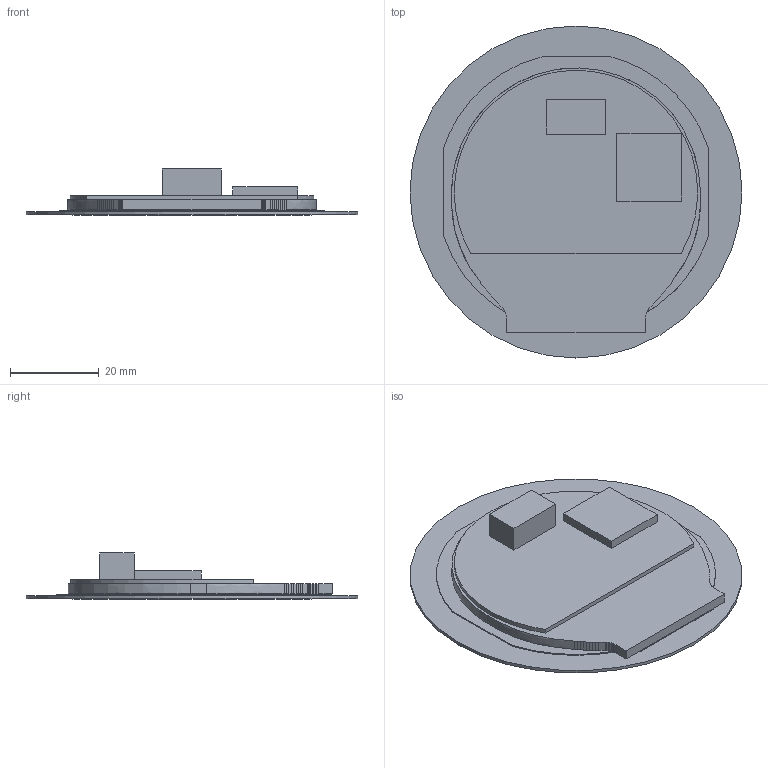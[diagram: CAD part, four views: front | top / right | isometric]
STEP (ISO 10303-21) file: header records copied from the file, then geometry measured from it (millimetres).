
FILE_DESCRIPTION(/* description */ (''),/* implementation_level */ '2;1');
FILE_NAME(/* name */ 'VTc021CY02CG.stp',/* time_stamp */ '2025-09-15T15:55:24+08:00',/* author */ (''),/* organization */ (''),/* preprocessor_version */ 'ST-DEVELOPER v16',/* originating_system */ 'SIEMENS PLM Software NX 10.0',/* authorisation */ '');
FILE_SCHEMA (('AP203_CONFIGURATION_CONTROLLED_3D_DESIGN_OF_MECHANICAL_PARTS_AND_ASSEMBLIES_MIM_LF { 1 0 10303 403 2 1 2}'));
Length unit declared in the file: millimetre
Products named in the file (1): VTc021CY02CG
Bounding box: 75 x 75 x 10.39 mm (x, y, z)
Volume: 12979.3 mm3; surface area: 30625.5 mm2
Topology: 7 solids, 7 shells, 74 faces, 184 edges, 124 vertices
Faces by surface type: plane 65, cylinder 5, extrusion 4
Full cylindrical faces by diameter (mm): 53.88 x1, 75 x1
Entity records: 6553 total; most frequent: CARTESIAN_POINT 4829, ORIENTED_EDGE 364, DIRECTION 218, EDGE_CURVE 182, VERTEX_POINT 124, B_SPLINE_CURVE_WITH_KNOTS 101, EDGE_LOOP 76, AXIS2_PLACEMENT_3D 75
